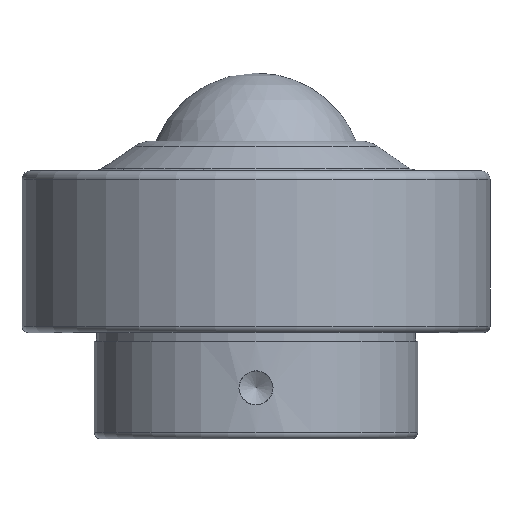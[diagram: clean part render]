
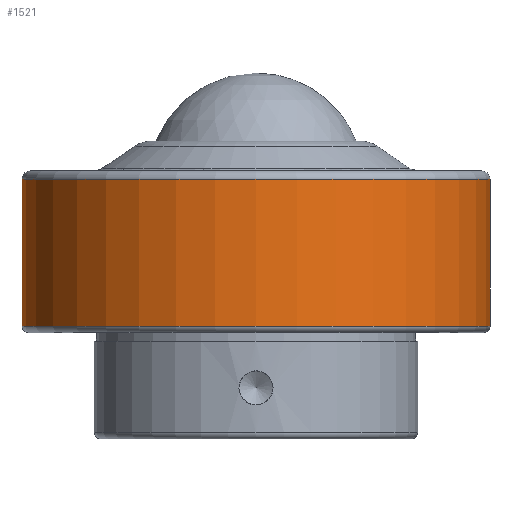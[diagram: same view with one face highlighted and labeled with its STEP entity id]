
A CAD part, front view. The second image highlights one B-rep face of the part: STEP entity #1521.
In plain terms, the highlighted cylindrical face has radius 55 mm (diameter 110 mm), a full revolution.
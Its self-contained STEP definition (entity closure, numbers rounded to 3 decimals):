
#36=CYLINDRICAL_SURFACE('',#1655,55.);
#56=FACE_BOUND('',#635,.T.);
#511=FACE_OUTER_BOUND('',#634,.T.);
#634=EDGE_LOOP('',(#1296));
#635=EDGE_LOOP('',(#1297));
#691=CIRCLE('',#1654,55.);
#692=CIRCLE('',#1656,55.);
#795=VERTEX_POINT('',#2539);
#796=VERTEX_POINT('',#2542);
#969=EDGE_CURVE('',#795,#795,#691,.T.);
#970=EDGE_CURVE('',#796,#796,#692,.T.);
#1296=ORIENTED_EDGE('',*,*,#970,.F.);
#1297=ORIENTED_EDGE('',*,*,#969,.T.);
#1521=ADVANCED_FACE('',(#511,#56),#36,.T.);
#1654=AXIS2_PLACEMENT_3D('',#2540,#2049,#2050);
#1655=AXIS2_PLACEMENT_3D('',#2541,#2051,#2052);
#1656=AXIS2_PLACEMENT_3D('',#2543,#2053,#2054);
#2049=DIRECTION('center_axis',(0.,0.,1.));
#2050=DIRECTION('ref_axis',(0.,-1.,0.));
#2051=DIRECTION('center_axis',(0.,0.,1.));
#2052=DIRECTION('ref_axis',(0.,-1.,0.));
#2053=DIRECTION('center_axis',(0.,0.,1.));
#2054=DIRECTION('ref_axis',(0.,-1.,0.));
#2539=CARTESIAN_POINT('',(0.,-55.,1.5));
#2540=CARTESIAN_POINT('Origin',(0.,0.,1.5));
#2541=CARTESIAN_POINT('Origin',(0.,0.,18.75));
#2542=CARTESIAN_POINT('',(0.,-55.,36.));
#2543=CARTESIAN_POINT('Origin',(0.,0.,36.));
